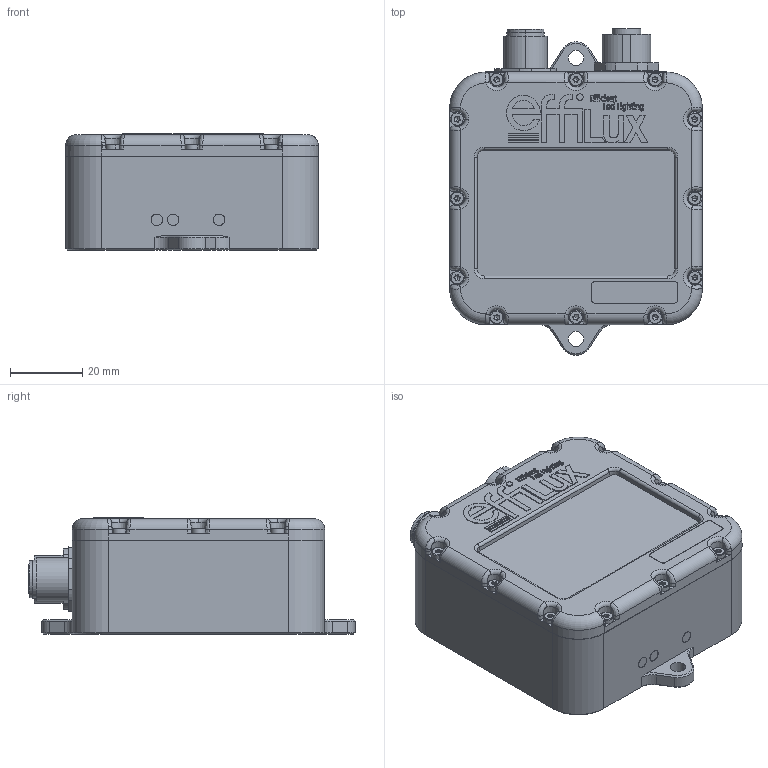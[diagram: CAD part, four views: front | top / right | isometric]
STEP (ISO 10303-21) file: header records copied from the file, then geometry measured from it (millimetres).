
FILE_DESCRIPTION (( 'STEP AP214' ), '1' );
FILE_NAME ('EFFI-SMART-6.STEP', '2016-12-07T12:02:41', ( '' ), ( '' ), 'SwSTEP 2.0', 'SolidWorks 2017', '' );
FILE_SCHEMA (( 'AUTOMOTIVE_DESIGN' ));
Length unit declared in the file: millimetre
Products named in the file (1): EFFI-SMART-6
Bounding box: 70.21 x 90.6 x 32.23 mm (x, y, z)
Surface area: 22812.6 mm2 (no closed solid volume)
Topology: 0 solids, 40 shells, 793 faces, 2595 edges, 1775 vertices
Faces by surface type: plane 257, cylinder 253, bspline 145, cone 91, torus 47
Entity records: 39694 total; most frequent: CARTESIAN_POINT 9203, DIRECTION 4422, ORIENTED_EDGE 4218, EDGE_CURVE 2561, VERTEX_POINT 1775, AXIS2_PLACEMENT_3D 1578, LINE 1266, VECTOR 1266
